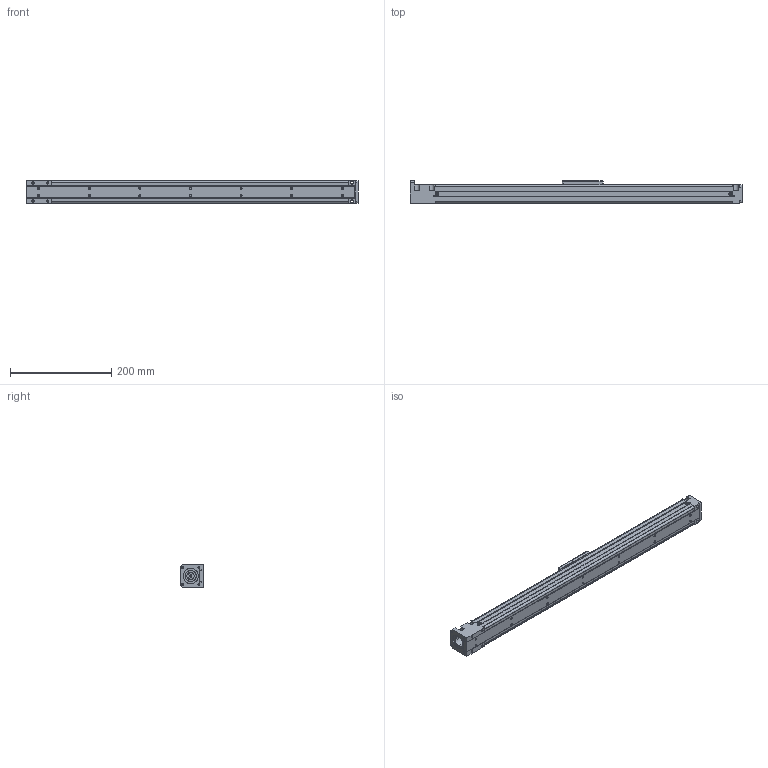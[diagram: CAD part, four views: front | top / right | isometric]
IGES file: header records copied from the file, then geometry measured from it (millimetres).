
Start section: SolidWorks IGES file using analytic representation for surfaces
Global section: file name: C:\Users\render\Documents\CAD Files\Integrated-Actuators\RL-Sreies\RL-45T\RL-45T-500.IGS; native system: SolidWorks 2009; preprocessor: SolidWorks 2009; author: render; date: 100614.132912; units: millimetre
Bounding box: 656 x 45 x 45 mm (x, y, z)
Surface area: 246467.3 mm2 (no closed solid volume)
Topology: 0 solids, 0 shells, 685 faces, 7132 edges, 7112 vertices
Faces by surface type: bspline 418, revolution 267
